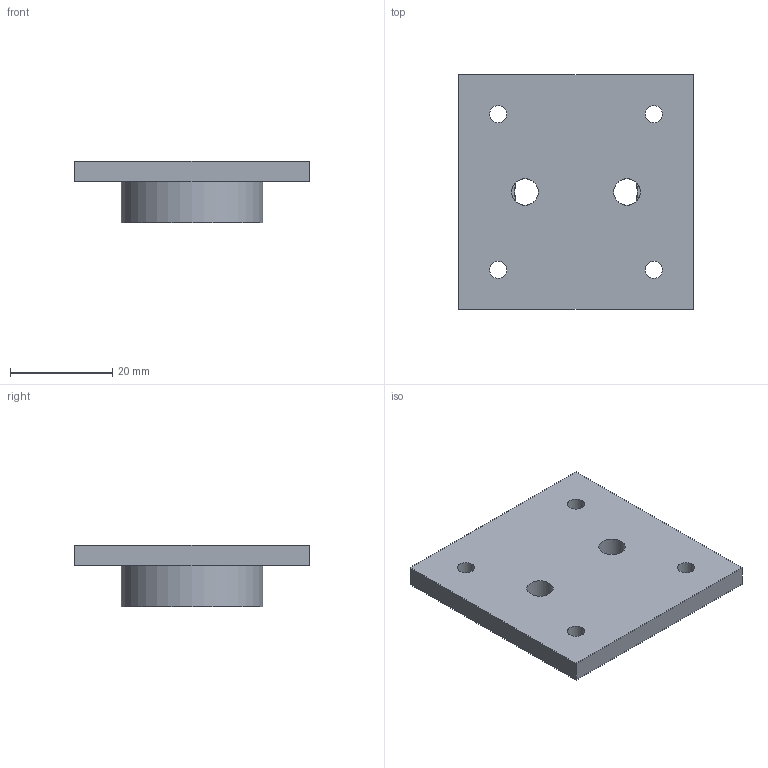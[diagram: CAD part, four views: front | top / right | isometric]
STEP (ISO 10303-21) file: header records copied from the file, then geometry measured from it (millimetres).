
FILE_DESCRIPTION(('FreeCAD Model'),'2;1');
FILE_NAME('Open CASCADE Shape Model','2026-10-30T15:57:35',('FreeCAD'),( 'FreeCAD'),'Open CASCADE STEP processor 7.8','FreeCAD','Unknown');
FILE_SCHEMA(('AUTOMOTIVE_DESIGN { 1 0 10303 214 1 1 1 1 }'));
Length unit declared in the file: millimetre
Products named in the file (1): Open CASCADE STEP translator 7.8 10
Bounding box: 46 x 46 x 12 mm (x, y, z)
Volume: 9382.6 mm3; surface area: 6420.7 mm2
Topology: 1 solids, 1 shells, 18 faces, 48 edges, 32 vertices
Faces by surface type: plane 10, cylinder 8
Full cylindrical faces by diameter (mm): 3.4 x4, 5.2 x2, 24 x1, 27.8 x1
Entity records: 610 total; most frequent: DIRECTION 110, CARTESIAN_POINT 99, ORIENTED_EDGE 96, EDGE_CURVE 48, AXIS2_PLACEMENT_3D 43, VERTEX_POINT 32, FACE_BOUND 30, EDGE_LOOP 30
